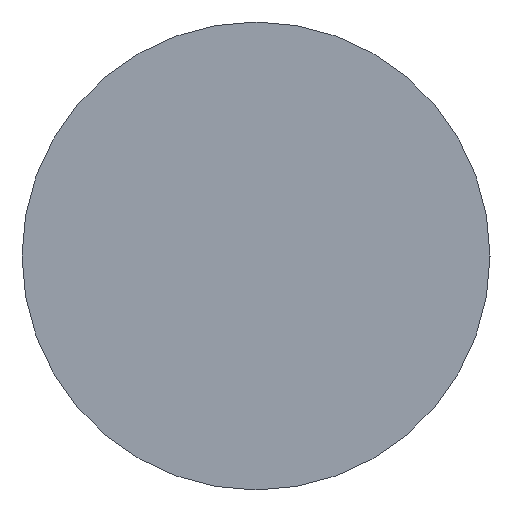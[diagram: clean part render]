
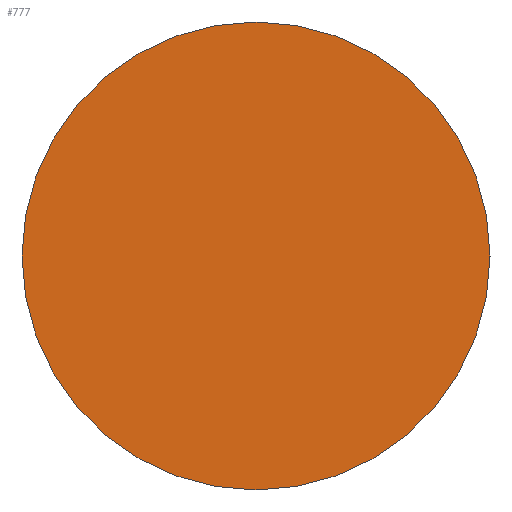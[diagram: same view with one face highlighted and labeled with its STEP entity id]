
A CAD part, left-side view. The second image highlights one B-rep face of the part: STEP entity #777.
In plain terms, the highlighted planar face has unit normal (-1, 0, 0).
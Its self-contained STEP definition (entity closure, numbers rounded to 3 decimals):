
#17=PLANE('',#919);
#44=CIRCLE('',#809,2.745);
#45=CIRCLE('',#810,2.745);
#159=FACE_OUTER_BOUND('',#200,.T.);
#200=EDGE_LOOP('',(#725,#726));
#285=VERTEX_POINT('',#1370);
#286=VERTEX_POINT('',#1372);
#378=EDGE_CURVE('',#285,#286,#44,.T.);
#379=EDGE_CURVE('',#286,#285,#45,.T.);
#725=ORIENTED_EDGE('',*,*,#379,.F.);
#726=ORIENTED_EDGE('',*,*,#378,.F.);
#777=ADVANCED_FACE('',(#159),#17,.T.);
#809=AXIS2_PLACEMENT_3D('',#1373,#949,#950);
#810=AXIS2_PLACEMENT_3D('',#1374,#951,#952);
#919=AXIS2_PLACEMENT_3D('',#1578,#1193,#1194);
#949=DIRECTION('center_axis',(1.,0.,0.));
#950=DIRECTION('ref_axis',(0.,1.,0.));
#951=DIRECTION('center_axis',(1.,0.,0.));
#952=DIRECTION('ref_axis',(0.,1.,0.));
#1193=DIRECTION('center_axis',(-1.,0.,0.));
#1194=DIRECTION('ref_axis',(0.,0.,1.));
#1370=CARTESIAN_POINT('',(0.,-2.745,0.));
#1372=CARTESIAN_POINT('',(0.,2.745,0.));
#1373=CARTESIAN_POINT('Origin',(0.,0.,0.));
#1374=CARTESIAN_POINT('Origin',(0.,0.,0.));
#1578=CARTESIAN_POINT('Origin',(0.,1.373,0.));
